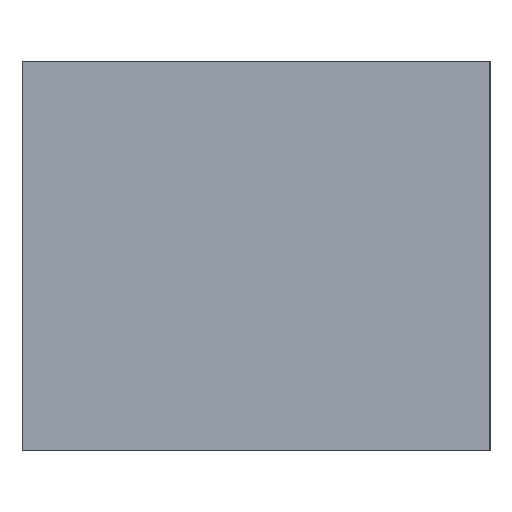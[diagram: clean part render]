
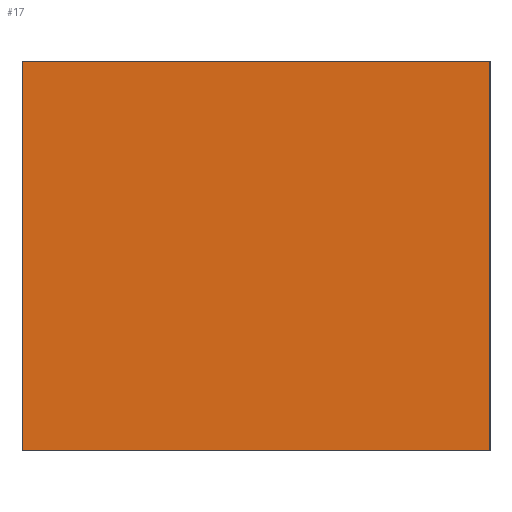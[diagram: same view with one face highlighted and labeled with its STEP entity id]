
A CAD part, left-side view. The second image highlights one B-rep face of the part: STEP entity #17.
In plain terms, the highlighted planar face has unit normal (-1, 0, 0).
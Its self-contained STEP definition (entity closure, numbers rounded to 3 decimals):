
#17 = ADVANCED_FACE('',(#18),#32,.F.);
#18 = FACE_BOUND('',#19,.F.);
#19 = EDGE_LOOP('',(#20,#55,#83,#111));
#20 = ORIENTED_EDGE('',*,*,#21,.F.);
#21 = EDGE_CURVE('',#22,#24,#26,.T.);
#22 = VERTEX_POINT('',#23);
#23 = CARTESIAN_POINT('',(79.65,-24.,132.48));
#24 = VERTEX_POINT('',#25);
#25 = CARTESIAN_POINT('',(79.65,-24.,142.48));
#26 = SURFACE_CURVE('',#27,(#31,#43),.PCURVE_S1.);
#27 = LINE('',#28,#29);
#28 = CARTESIAN_POINT('',(79.65,-24.,132.48));
#29 = VECTOR('',#30,1.);
#30 = DIRECTION('',(0.,0.,1.));
#31 = PCURVE('',#32,#37);
#32 = PLANE('',#33);
#33 = AXIS2_PLACEMENT_3D('',#34,#35,#36);
#34 = CARTESIAN_POINT('',(79.65,-24.,132.48));
#35 = DIRECTION('',(1.,0.,0.));
#36 = DIRECTION('',(0.,0.,1.));
#37 = DEFINITIONAL_REPRESENTATION('',(#38),#42);
#38 = LINE('',#39,#40);
#39 = CARTESIAN_POINT('',(0.,0.));
#40 = VECTOR('',#41,1.);
#41 = DIRECTION('',(1.,0.));
#42 = ( GEOMETRIC_REPRESENTATION_CONTEXT(2) 
PARAMETRIC_REPRESENTATION_CONTEXT() REPRESENTATION_CONTEXT('2D SPACE',''
  ) );
#43 = PCURVE('',#44,#49);
#44 = PLANE('',#45);
#45 = AXIS2_PLACEMENT_3D('',#46,#47,#48);
#46 = CARTESIAN_POINT('',(79.65,-24.,132.48));
#47 = DIRECTION('',(0.,1.,0.));
#48 = DIRECTION('',(0.,0.,1.));
#49 = DEFINITIONAL_REPRESENTATION('',(#50),#54);
#50 = LINE('',#51,#52);
#51 = CARTESIAN_POINT('',(0.,0.));
#52 = VECTOR('',#53,1.);
#53 = DIRECTION('',(1.,0.));
#54 = ( GEOMETRIC_REPRESENTATION_CONTEXT(2) 
PARAMETRIC_REPRESENTATION_CONTEXT() REPRESENTATION_CONTEXT('2D SPACE',''
  ) );
#55 = ORIENTED_EDGE('',*,*,#56,.T.);
#56 = EDGE_CURVE('',#22,#57,#59,.T.);
#57 = VERTEX_POINT('',#58);
#58 = CARTESIAN_POINT('',(79.65,-12.,132.48));
#59 = SURFACE_CURVE('',#60,(#64,#71),.PCURVE_S1.);
#60 = LINE('',#61,#62);
#61 = CARTESIAN_POINT('',(79.65,-24.,132.48));
#62 = VECTOR('',#63,1.);
#63 = DIRECTION('',(0.,1.,0.));
#64 = PCURVE('',#32,#65);
#65 = DEFINITIONAL_REPRESENTATION('',(#66),#70);
#66 = LINE('',#67,#68);
#67 = CARTESIAN_POINT('',(0.,0.));
#68 = VECTOR('',#69,1.);
#69 = DIRECTION('',(0.,-1.));
#70 = ( GEOMETRIC_REPRESENTATION_CONTEXT(2) 
PARAMETRIC_REPRESENTATION_CONTEXT() REPRESENTATION_CONTEXT('2D SPACE',''
  ) );
#71 = PCURVE('',#72,#77);
#72 = PLANE('',#73);
#73 = AXIS2_PLACEMENT_3D('',#74,#75,#76);
#74 = CARTESIAN_POINT('',(79.65,-24.,132.48));
#75 = DIRECTION('',(0.,0.,1.));
#76 = DIRECTION('',(1.,0.,0.));
#77 = DEFINITIONAL_REPRESENTATION('',(#78),#82);
#78 = LINE('',#79,#80);
#79 = CARTESIAN_POINT('',(0.,0.));
#80 = VECTOR('',#81,1.);
#81 = DIRECTION('',(0.,1.));
#82 = ( GEOMETRIC_REPRESENTATION_CONTEXT(2) 
PARAMETRIC_REPRESENTATION_CONTEXT() REPRESENTATION_CONTEXT('2D SPACE',''
  ) );
#83 = ORIENTED_EDGE('',*,*,#84,.T.);
#84 = EDGE_CURVE('',#57,#85,#87,.T.);
#85 = VERTEX_POINT('',#86);
#86 = CARTESIAN_POINT('',(79.65,-12.,142.48));
#87 = SURFACE_CURVE('',#88,(#92,#99),.PCURVE_S1.);
#88 = LINE('',#89,#90);
#89 = CARTESIAN_POINT('',(79.65,-12.,132.48));
#90 = VECTOR('',#91,1.);
#91 = DIRECTION('',(0.,0.,1.));
#92 = PCURVE('',#32,#93);
#93 = DEFINITIONAL_REPRESENTATION('',(#94),#98);
#94 = LINE('',#95,#96);
#95 = CARTESIAN_POINT('',(0.,-12.));
#96 = VECTOR('',#97,1.);
#97 = DIRECTION('',(1.,0.));
#98 = ( GEOMETRIC_REPRESENTATION_CONTEXT(2) 
PARAMETRIC_REPRESENTATION_CONTEXT() REPRESENTATION_CONTEXT('2D SPACE',''
  ) );
#99 = PCURVE('',#100,#105);
#100 = PLANE('',#101);
#101 = AXIS2_PLACEMENT_3D('',#102,#103,#104);
#102 = CARTESIAN_POINT('',(79.65,-12.,132.48));
#103 = DIRECTION('',(0.,1.,0.));
#104 = DIRECTION('',(0.,0.,1.));
#105 = DEFINITIONAL_REPRESENTATION('',(#106),#110);
#106 = LINE('',#107,#108);
#107 = CARTESIAN_POINT('',(0.,0.));
#108 = VECTOR('',#109,1.);
#109 = DIRECTION('',(1.,0.));
#110 = ( GEOMETRIC_REPRESENTATION_CONTEXT(2) 
PARAMETRIC_REPRESENTATION_CONTEXT() REPRESENTATION_CONTEXT('2D SPACE',''
  ) );
#111 = ORIENTED_EDGE('',*,*,#112,.F.);
#112 = EDGE_CURVE('',#24,#85,#113,.T.);
#113 = SURFACE_CURVE('',#114,(#118,#125),.PCURVE_S1.);
#114 = LINE('',#115,#116);
#115 = CARTESIAN_POINT('',(79.65,-24.,142.48));
#116 = VECTOR('',#117,1.);
#117 = DIRECTION('',(0.,1.,0.));
#118 = PCURVE('',#32,#119);
#119 = DEFINITIONAL_REPRESENTATION('',(#120),#124);
#120 = LINE('',#121,#122);
#121 = CARTESIAN_POINT('',(10.,0.));
#122 = VECTOR('',#123,1.);
#123 = DIRECTION('',(0.,-1.));
#124 = ( GEOMETRIC_REPRESENTATION_CONTEXT(2) 
PARAMETRIC_REPRESENTATION_CONTEXT() REPRESENTATION_CONTEXT('2D SPACE',''
  ) );
#125 = PCURVE('',#126,#131);
#126 = PLANE('',#127);
#127 = AXIS2_PLACEMENT_3D('',#128,#129,#130);
#128 = CARTESIAN_POINT('',(79.65,-24.,142.48));
#129 = DIRECTION('',(0.,0.,1.));
#130 = DIRECTION('',(1.,0.,0.));
#131 = DEFINITIONAL_REPRESENTATION('',(#132),#136);
#132 = LINE('',#133,#134);
#133 = CARTESIAN_POINT('',(0.,0.));
#134 = VECTOR('',#135,1.);
#135 = DIRECTION('',(0.,1.));
#136 = ( GEOMETRIC_REPRESENTATION_CONTEXT(2) 
PARAMETRIC_REPRESENTATION_CONTEXT() REPRESENTATION_CONTEXT('2D SPACE',''
  ) );
